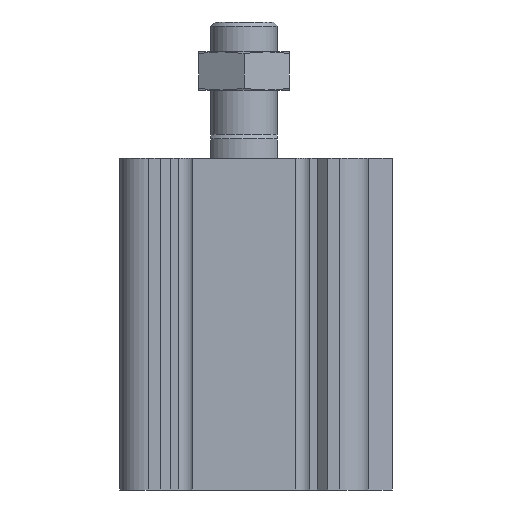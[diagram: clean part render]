
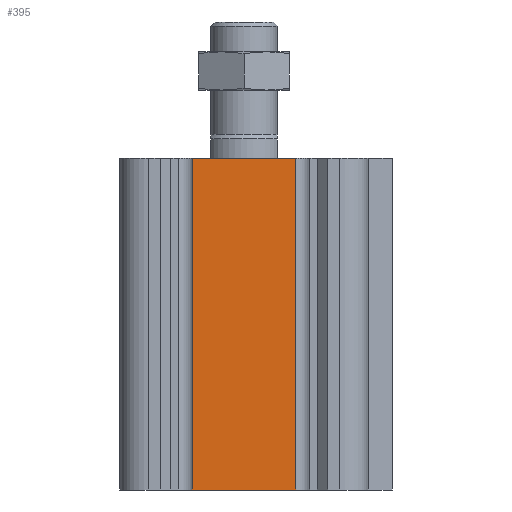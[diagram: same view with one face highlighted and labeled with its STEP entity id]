
A CAD part, front view. The second image highlights one B-rep face of the part: STEP entity #395.
In plain terms, the highlighted planar face has unit normal (0, -1, 0).
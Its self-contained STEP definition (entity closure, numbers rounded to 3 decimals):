
#395 = ADVANCED_FACE( '', ( #866 ), #867, .T. );
#866 = FACE_OUTER_BOUND( '', #1428, .T. );
#867 = PLANE( '', #1429 );
#1428 = EDGE_LOOP( '', ( #2319, #2320, #2321, #2322 ) );
#1429 = AXIS2_PLACEMENT_3D( '', #2323, #2324, #2325 );
#2319 = ORIENTED_EDGE( '', *, *, #3253, .F. );
#2320 = ORIENTED_EDGE( '', *, *, #3251, .F. );
#2321 = ORIENTED_EDGE( '', *, *, #3254, .T. );
#2322 = ORIENTED_EDGE( '', *, *, #3059, .T. );
#2323 = CARTESIAN_POINT( '', ( -10.8, -23.8, -69.5 ) );
#2324 = DIRECTION( '', ( 0., -1., 0. ) );
#2325 = DIRECTION( '', ( 0., 0., -1. ) );
#3059 = EDGE_CURVE( '', #3612, #3609, #3613, .T. );
#3251 = EDGE_CURVE( '', #3911, #3909, #3913, .T. );
#3253 = EDGE_CURVE( '', #3909, #3609, #3915, .T. );
#3254 = EDGE_CURVE( '', #3911, #3612, #3916, .T. );
#3609 = VERTEX_POINT( '', #4389 );
#3612 = VERTEX_POINT( '', #4393 );
#3613 = LINE( '', #4394, #4395 );
#3909 = VERTEX_POINT( '', #4836 );
#3911 = VERTEX_POINT( '', #4839 );
#3913 = LINE( '', #4842, #4843 );
#3915 = LINE( '', #4845, #4846 );
#3916 = LINE( '', #4847, #4848 );
#4389 = CARTESIAN_POINT( '', ( 10.8, -23.8, 0. ) );
#4393 = CARTESIAN_POINT( '', ( 10.8, -23.8, -69.5 ) );
#4394 = CARTESIAN_POINT( '', ( 10.8, -23.8, -69.5 ) );
#4395 = VECTOR( '', #5272, 1000. );
#4836 = CARTESIAN_POINT( '', ( -10.8, -23.8, 0. ) );
#4839 = CARTESIAN_POINT( '', ( -10.8, -23.8, -69.5 ) );
#4842 = CARTESIAN_POINT( '', ( -10.8, -23.8, -69.5 ) );
#4843 = VECTOR( '', #5496, 1000. );
#4845 = CARTESIAN_POINT( '', ( -10.8, -23.8, 0. ) );
#4846 = VECTOR( '', #5497, 1000. );
#4847 = CARTESIAN_POINT( '', ( -10.8, -23.8, -69.5 ) );
#4848 = VECTOR( '', #5498, 1000. );
#5272 = DIRECTION( '', ( 0., 0., 1. ) );
#5496 = DIRECTION( '', ( 0., 0., 1. ) );
#5497 = DIRECTION( '', ( 1., 0., 0. ) );
#5498 = DIRECTION( '', ( 1., 0., 0. ) );
